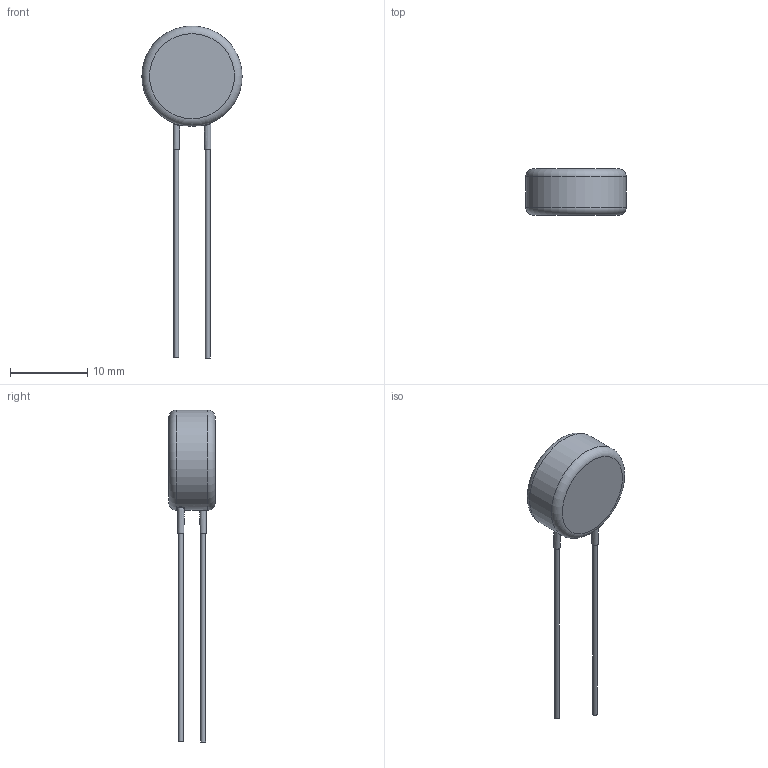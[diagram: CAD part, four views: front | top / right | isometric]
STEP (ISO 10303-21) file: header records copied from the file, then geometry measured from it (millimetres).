
FILE_DESCRIPTION(/* description */ (''),/* implementation_level */ '2;1');
FILE_NAME(/* name */ 'I:\Marketing\M6t1\3D-Models\Zchng-Werk-3\Upload for homepage\BCC neu\AY2 Straight\Step\AY2682M51Y5VS63L5.stp',/* time_stamp */ '2023-07-13T14:04:17+02:00',/* author */ ('truediger'),/* organization */ (''),/* preprocessor_version */ 'ST-DEVELOPER v18',/* originating_system */ 'Autodesk Inventor 2020',/* authorisation */ '');
FILE_SCHEMA (('AUTOMOTIVE_DESIGN { 1 0 10303 214 3 1 1 }'));
Length unit declared in the file: millimetre
Products named in the file (1): Bauteil2
Bounding box: 13 x 6 x 43 mm (x, y, z)
Volume: 798.4 mm3; surface area: 593.4 mm2
Topology: 1 solids, 1 shells, 17 faces, 41 edges, 30 vertices
Faces by surface type: plane 6, bspline 6, cylinder 3, torus 2
Full cylindrical faces by diameter (mm): 0.6 x2, 13 x1
Entity records: 1405 total; most frequent: CARTESIAN_POINT 962, ORIENTED_EDGE 82, DIRECTION 71, EDGE_CURVE 41, AXIS2_PLACEMENT_3D 34, VERTEX_POINT 30, CIRCLE 22, EDGE_LOOP 21
